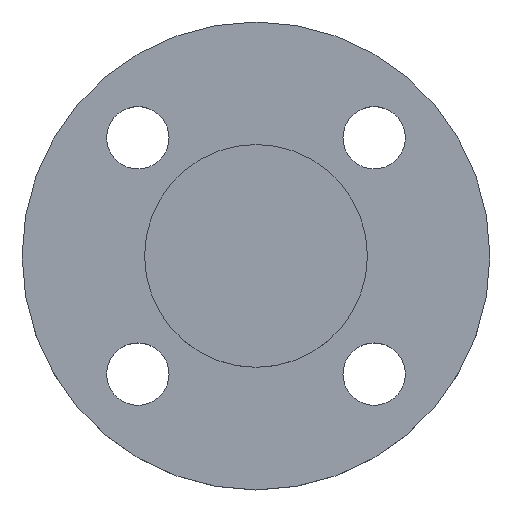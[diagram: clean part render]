
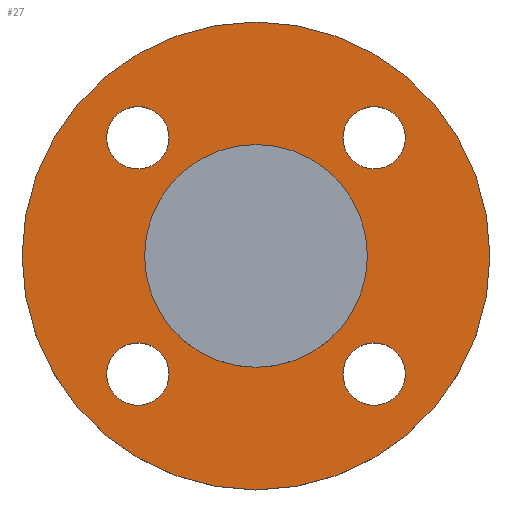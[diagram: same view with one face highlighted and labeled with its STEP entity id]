
A CAD part, top view. The second image highlights one B-rep face of the part: STEP entity #27.
In plain terms, the highlighted planar face has unit normal (0, 0, 1).
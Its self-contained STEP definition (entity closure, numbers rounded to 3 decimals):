
#3 = DIRECTION ( 'NONE',  ( 1., 0., 0. ) ) ;
#27 = ADVANCED_FACE ( 'NONE', ( #313, #315, #316, #317, #318, #319 ), #320, .T. ) ;
#36 = CARTESIAN_POINT ( 'NONE',  ( -26.517, 26.517, -4.5 ) ) ;
#41 = EDGE_CURVE ( 'NONE', #258, #272, #402, .T. ) ;
#44 = DIRECTION ( 'NONE',  ( 0., 0., -1. ) ) ;
#46 = DIRECTION ( 'NONE',  ( 1., 0., 0. ) ) ;
#59 = EDGE_CURVE ( 'NONE', #249, #270, #311, .T. ) ;
#60 = DIRECTION ( 'NONE',  ( 1., 0., 0. ) ) ;
#68 = EDGE_CURVE ( 'NONE', #281, #276, #102, .T. ) ;
#74 = EDGE_CURVE ( 'NONE', #270, #249, #253, .T. ) ;
#81 = CIRCLE ( 'NONE', #152, 7. ) ;
#84 = AXIS2_PLACEMENT_3D ( 'NONE', #352, #353, #354 ) ;
#93 = CARTESIAN_POINT ( 'NONE',  ( -33.517, 26.517, -4.5 ) ) ;
#102 = CIRCLE ( 'NONE', #84, 25. ) ;
#103 = CARTESIAN_POINT ( 'NONE',  ( -19.517, 26.517, -4.5 ) ) ;
#106 = CIRCLE ( 'NONE', #510, 25. ) ;
#108 = EDGE_CURVE ( 'NONE', #259, #204, #208, .T. ) ;
#125 = AXIS2_PLACEMENT_3D ( 'NONE', #339, #341, #342 ) ;
#130 = AXIS2_PLACEMENT_3D ( 'NONE', #501, #502, #3 ) ;
#147 = AXIS2_PLACEMENT_3D ( 'NONE', #333, #334, #335 ) ;
#152 = AXIS2_PLACEMENT_3D ( 'NONE', #438, #452, #60 ) ;
#153 = CARTESIAN_POINT ( 'NONE',  ( 33.517, -26.517, -4.5 ) ) ;
#154 = CARTESIAN_POINT ( 'NONE',  ( 33.517, 26.517, -4.5 ) ) ;
#157 = CARTESIAN_POINT ( 'NONE',  ( -19.517, -26.517, -4.5 ) ) ;
#176 = ORIENTED_EDGE ( 'NONE', *, *, #398, .T. ) ;
#177 = ORIENTED_EDGE ( 'NONE', *, *, #262, .T. ) ;
#178 = ORIENTED_EDGE ( 'NONE', *, *, #413, .T. ) ;
#179 = VERTEX_POINT ( 'NONE', #153 ) ;
#183 = ORIENTED_EDGE ( 'NONE', *, *, #251, .T. ) ;
#184 = AXIS2_PLACEMENT_3D ( 'NONE', #463, #464, #465 ) ;
#186 = ORIENTED_EDGE ( 'NONE', *, *, #386, .T. ) ;
#187 = ORIENTED_EDGE ( 'NONE', *, *, #108, .T. ) ;
#188 = ORIENTED_EDGE ( 'NONE', *, *, #41, .T. ) ;
#189 = ORIENTED_EDGE ( 'NONE', *, *, #500, .T. ) ;
#190 = ORIENTED_EDGE ( 'NONE', *, *, #68, .T. ) ;
#191 = ORIENTED_EDGE ( 'NONE', *, *, #348, .T. ) ;
#192 = ORIENTED_EDGE ( 'NONE', *, *, #59, .F. ) ;
#193 = ORIENTED_EDGE ( 'NONE', *, *, #74, .F. ) ;
#197 = AXIS2_PLACEMENT_3D ( 'NONE', #36, #44, #46 ) ;
#204 = VERTEX_POINT ( 'NONE', #103 ) ;
#208 = CIRCLE ( 'NONE', #197, 7. ) ;
#214 = EDGE_LOOP ( 'NONE', ( #192, #193 ) ) ;
#215 = AXIS2_PLACEMENT_3D ( 'NONE', #355, #356, #357 ) ;
#217 = CIRCLE ( 'NONE', #236, 7. ) ;
#236 = AXIS2_PLACEMENT_3D ( 'NONE', #488, #489, #490 ) ;
#248 = VERTEX_POINT ( 'NONE', #384 ) ;
#249 = VERTEX_POINT ( 'NONE', #390 ) ;
#251 = EDGE_CURVE ( 'NONE', #248, #290, #305, .T. ) ;
#253 = CIRCLE ( 'NONE', #215, 52.5 ) ;
#258 = VERTEX_POINT ( 'NONE', #154 ) ;
#259 = VERTEX_POINT ( 'NONE', #93 ) ;
#262 = EDGE_CURVE ( 'NONE', #299, #179, #81, .T. ) ;
#264 = CIRCLE ( 'NONE', #375, 7. ) ;
#265 = EDGE_LOOP ( 'NONE', ( #176, #177 ) ) ;
#270 = VERTEX_POINT ( 'NONE', #426 ) ;
#272 = VERTEX_POINT ( 'NONE', #407 ) ;
#273 = AXIS2_PLACEMENT_3D ( 'NONE', #389, #391, #394 ) ;
#275 = EDGE_LOOP ( 'NONE', ( #186, #187 ) ) ;
#276 = VERTEX_POINT ( 'NONE', #453 ) ;
#280 = EDGE_LOOP ( 'NONE', ( #178, #183 ) ) ;
#281 = VERTEX_POINT ( 'NONE', #444 ) ;
#290 = VERTEX_POINT ( 'NONE', #157 ) ;
#293 = EDGE_LOOP ( 'NONE', ( #190, #191 ) ) ;
#297 = EDGE_LOOP ( 'NONE', ( #188, #189 ) ) ;
#299 = VERTEX_POINT ( 'NONE', #409 ) ;
#305 = CIRCLE ( 'NONE', #273, 7. ) ;
#311 = CIRCLE ( 'NONE', #125, 52.5 ) ;
#313 = FACE_BOUND ( 'NONE', #265, .T. ) ;
#315 = FACE_BOUND ( 'NONE', #280, .T. ) ;
#316 = FACE_BOUND ( 'NONE', #275, .T. ) ;
#317 = FACE_BOUND ( 'NONE', #297, .T. ) ;
#318 = FACE_BOUND ( 'NONE', #293, .T. ) ;
#319 = FACE_OUTER_BOUND ( 'NONE', #214, .T. ) ;
#320 = PLANE ( 'NONE',  #516 ) ;
#321 = CARTESIAN_POINT ( 'NONE',  ( 25., 0., -4.5 ) ) ;
#322 = DIRECTION ( 'NONE',  ( 0., 0., 1. ) ) ;
#323 = DIRECTION ( 'NONE',  ( 1., 0., 0. ) ) ;
#325 = CIRCLE ( 'NONE', #184, 7. ) ;
#333 = CARTESIAN_POINT ( 'NONE',  ( 26.517, 26.517, -4.5 ) ) ;
#334 = DIRECTION ( 'NONE',  ( 0., 0., -1. ) ) ;
#335 = DIRECTION ( 'NONE',  ( 1., 0., 0. ) ) ;
#339 = CARTESIAN_POINT ( 'NONE',  ( 0., 0., -4.5 ) ) ;
#341 = DIRECTION ( 'NONE',  ( 0., 0., -1. ) ) ;
#342 = DIRECTION ( 'NONE',  ( -1., 0., 0. ) ) ;
#348 = EDGE_CURVE ( 'NONE', #276, #281, #106, .T. ) ;
#352 = CARTESIAN_POINT ( 'NONE',  ( 0., 0., -4.5 ) ) ;
#353 = DIRECTION ( 'NONE',  ( 0., 0., -1. ) ) ;
#354 = DIRECTION ( 'NONE',  ( -1., 0., 0. ) ) ;
#355 = CARTESIAN_POINT ( 'NONE',  ( 0., 0., -4.5 ) ) ;
#356 = DIRECTION ( 'NONE',  ( 0., 0., -1. ) ) ;
#357 = DIRECTION ( 'NONE',  ( -1., 0., 0. ) ) ;
#375 = AXIS2_PLACEMENT_3D ( 'NONE', #469, #470, #471 ) ;
#384 = CARTESIAN_POINT ( 'NONE',  ( -33.517, -26.517, -4.5 ) ) ;
#386 = EDGE_CURVE ( 'NONE', #204, #259, #325, .T. ) ;
#389 = CARTESIAN_POINT ( 'NONE',  ( -26.517, -26.517, -4.5 ) ) ;
#390 = CARTESIAN_POINT ( 'NONE',  ( 52.5, 0., -4.5 ) ) ;
#391 = DIRECTION ( 'NONE',  ( 0., 0., -1. ) ) ;
#394 = DIRECTION ( 'NONE',  ( 1., 0., 0. ) ) ;
#398 = EDGE_CURVE ( 'NONE', #179, #299, #264, .T. ) ;
#402 = CIRCLE ( 'NONE', #147, 7. ) ;
#407 = CARTESIAN_POINT ( 'NONE',  ( 19.517, 26.517, -4.5 ) ) ;
#409 = CARTESIAN_POINT ( 'NONE',  ( 19.517, -26.517, -4.5 ) ) ;
#413 = EDGE_CURVE ( 'NONE', #290, #248, #217, .T. ) ;
#426 = CARTESIAN_POINT ( 'NONE',  ( -52.5, 0., -4.5 ) ) ;
#432 = CARTESIAN_POINT ( 'NONE',  ( 0., 0., -4.5 ) ) ;
#433 = DIRECTION ( 'NONE',  ( 0., 0., -1. ) ) ;
#434 = DIRECTION ( 'NONE',  ( -1., 0., 0. ) ) ;
#438 = CARTESIAN_POINT ( 'NONE',  ( 26.517, -26.517, -4.5 ) ) ;
#444 = CARTESIAN_POINT ( 'NONE',  ( -25., 0., -4.5 ) ) ;
#452 = DIRECTION ( 'NONE',  ( 0., 0., -1. ) ) ;
#453 = CARTESIAN_POINT ( 'NONE',  ( 25., 0., -4.5 ) ) ;
#463 = CARTESIAN_POINT ( 'NONE',  ( -26.517, 26.517, -4.5 ) ) ;
#464 = DIRECTION ( 'NONE',  ( 0., 0., -1. ) ) ;
#465 = DIRECTION ( 'NONE',  ( 1., 0., 0. ) ) ;
#469 = CARTESIAN_POINT ( 'NONE',  ( 26.517, -26.517, -4.5 ) ) ;
#470 = DIRECTION ( 'NONE',  ( 0., 0., -1. ) ) ;
#471 = DIRECTION ( 'NONE',  ( 1., 0., 0. ) ) ;
#473 = CIRCLE ( 'NONE', #130, 7. ) ;
#488 = CARTESIAN_POINT ( 'NONE',  ( -26.517, -26.517, -4.5 ) ) ;
#489 = DIRECTION ( 'NONE',  ( 0., 0., -1. ) ) ;
#490 = DIRECTION ( 'NONE',  ( 1., 0., 0. ) ) ;
#500 = EDGE_CURVE ( 'NONE', #272, #258, #473, .T. ) ;
#501 = CARTESIAN_POINT ( 'NONE',  ( 26.517, 26.517, -4.5 ) ) ;
#502 = DIRECTION ( 'NONE',  ( 0., 0., -1. ) ) ;
#510 = AXIS2_PLACEMENT_3D ( 'NONE', #432, #433, #434 ) ;
#516 = AXIS2_PLACEMENT_3D ( 'NONE', #321, #322, #323 ) ;
